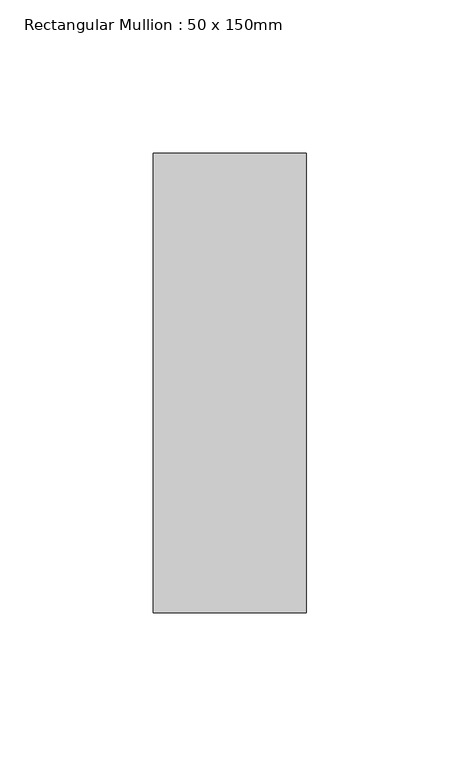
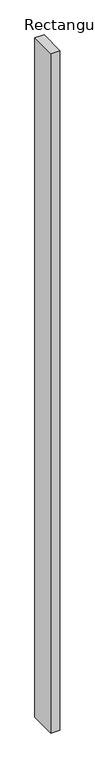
"""IFC4 building model written with IfcOpenShell, lengths in millimetres: member geometry, Rectangular Mullion : 50 x 150mm."""

from ifc_helpers import new_model, si_unit, frame, origin, place, context, project, spatial, polyline, outline, extrude, source, transform, mapped, element, save


def rectangular_mullion_50_x_150mm_a037c29c(model_context):
    return source(origin(), model_context, "Body", "SweptSolid", [
        extrude(outline(polyline([(25.0, 75.0), (25.0, -75.0), (-25.0, -75.0), (-25.0, 75.0), (25.0, 75.0)])), frame((0.0, 0.0, -3950.0), z_axis=(0.0, 0.0, 1.0), x_axis=(1.0, 0.0, 0.0)), (0.0, 0.0, 1.0), 3950.0),
    ])


if __name__ == "__main__":
    model = new_model("IFC4")
    model_context = context("Model", 3, world=origin())
    ifc_project = project(units=[si_unit("LENGTHUNIT", "METRE", prefix="MILLI")], contexts=[model_context])
    site = spatial("IfcSite", under=ifc_project)
    building = spatial("IfcBuilding", under=site)
    placement = place(None, origin())
    rectangular_mullion_50_x_150mm_shape = rectangular_mullion_50_x_150mm_a037c29c(model_context)
    element("IfcMember", 1, ObjectType="Rectangular Mullion : 50 x 150mm", at=placement, inside=building, context=model_context, shape_type="MappedRepresentation", body=[
        mapped(rectangular_mullion_50_x_150mm_shape, transform((0.0, 0.0, 0.0), x_axis=(1.0, 0.0, 0.0), y_axis=(0.0, 1.0, 0.0), z_axis=(0.0, 0.0, 1.0))),
    ])
    save(model, "model.ifc")
